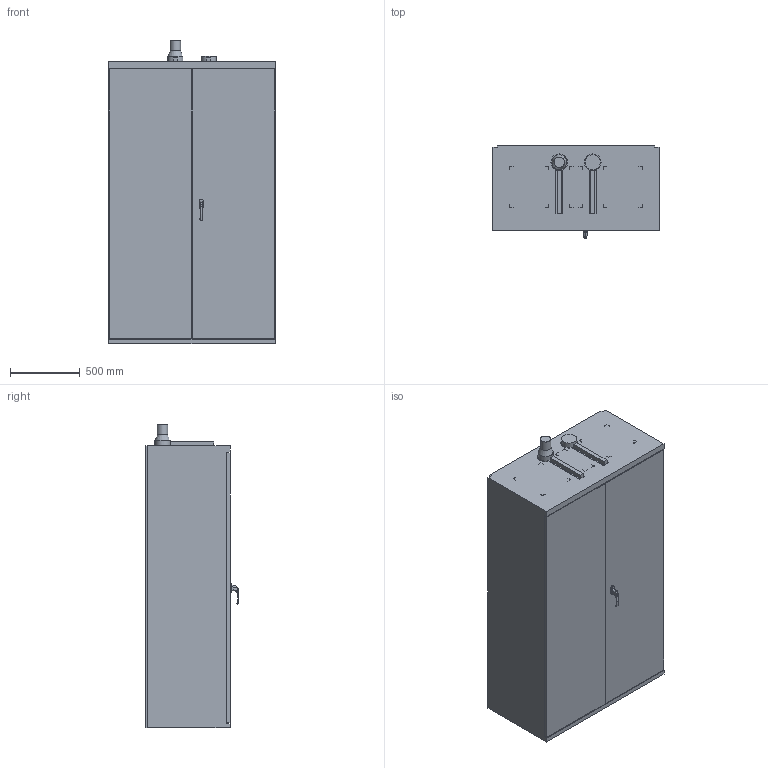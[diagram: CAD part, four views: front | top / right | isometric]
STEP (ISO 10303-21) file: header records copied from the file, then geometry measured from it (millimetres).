
FILE_DESCRIPTION(/* description */ ('Unknown'),/* implementation_level */ '2;1');
FILE_NAME(/* name */ '79-201260_VDK',/* time_stamp */ '2019-04-23T10:24:46+02:00',/* author */ ('Unknown'),/* organization */ ('Unknown'),/* preprocessor_version */ 'ST-DEVELOPER v16.7',/* originating_system */ 'DEX',/* authorisation */ $);
FILE_SCHEMA (('AUTOMOTIVE_DESIGN {1 0 10303 214 3 1 1}'));
Length unit declared in the file: millimetre
Products named in the file (1): 79-201260_VDK
Bounding box: 1195 x 671.2 x 2187 mm (x, y, z)
Volume: 1479016414.5 mm3; surface area: 9106775.8 mm2
Topology: 1 solids, 1 shells, 178 faces, 439 edges, 284 vertices
Faces by surface type: plane 141, cylinder 22, bspline 10, sphere 2, torus 2, cone 1
Full cylindrical faces by diameter (mm): 15 x1, 20 x1, 75 x1, 110 x2, 120 x2
Entity records: 6621 total; most frequent: CARTESIAN_POINT 1230, ORIENTED_EDGE 848, DIRECTION 795, EDGE_CURVE 424, LINE 357, VECTOR 357, VERTEX_POINT 281, AXIS2_PLACEMENT_3D 219
